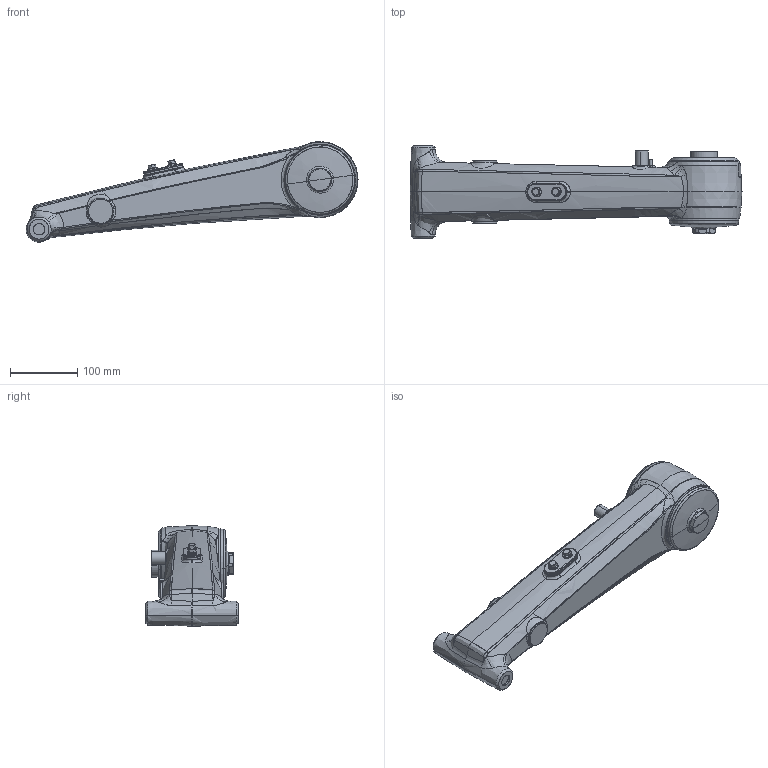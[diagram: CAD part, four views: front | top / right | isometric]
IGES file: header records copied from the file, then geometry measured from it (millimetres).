
Start section: SolidWorks IGES file using analytic representation for surfaces
Global section: file name: C:\Data\SAP_DOC_20200123_IRB390\Lättmodeller_IRB390\Final_4axis\IRB390_15kg_1300_STD_rev0_IGES_J\IRB390_X_1300_STD_UA1_00.IGS; native system: SolidWorks 2018; preprocessor: SolidWorks 2018; author: sestdan2; date: 200204.160608; units: millimetre
Bounding box: 494.61 x 138 x 149.77 mm (x, y, z)
Surface area: 166723.6 mm2 (no closed solid volume)
Topology: 0 solids, 0 shells, 356 faces, 4827 edges, 4824 vertices
Faces by surface type: bspline 255, revolution 101
